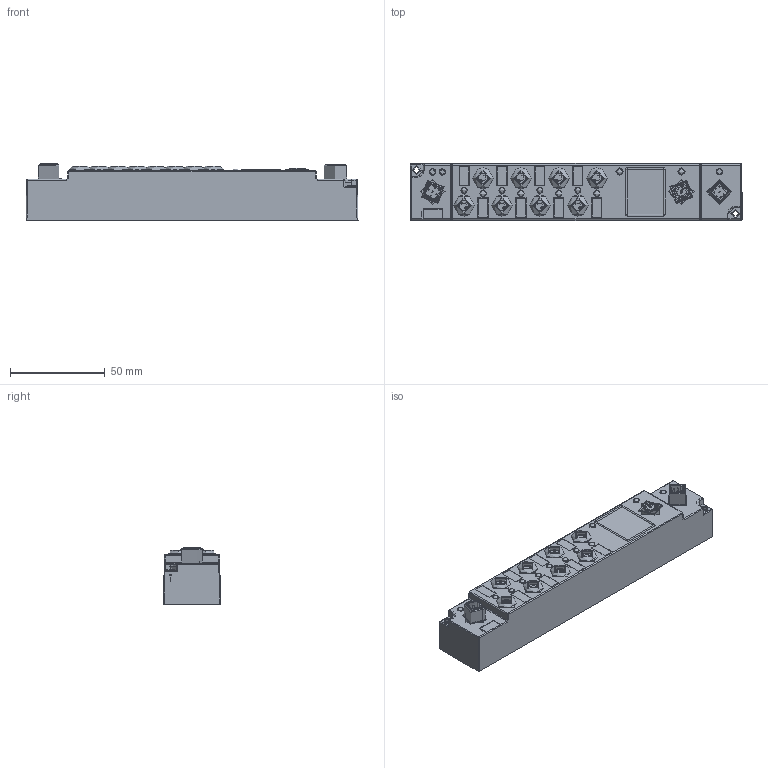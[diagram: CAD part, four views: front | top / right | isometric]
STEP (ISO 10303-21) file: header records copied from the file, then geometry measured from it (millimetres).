
FILE_DESCRIPTION (( 'STEP AP214' ), '1' );
FILE_NAME ('14-108-087 PVDM087.STEP', '2014-02-05T10:24:50', ( 'gianik' ), ( '' ), 'SwSTEP 2.0', 'SolidWorks 2013', '' );
FILE_SCHEMA (( 'AUTOMOTIVE_DESIGN' ));
Length unit declared in the file: millimetre
Products named in the file (28): 4110251342_MF 10-5 MC CABUR_1854510000 ; 105700_11; O-Ring 7,5mm x 1,3mm NBR70  ; 105600_63; O-Ring 9mm x 1mm NBR70  ; 4080221013; O-Ring 5mm x 1,2mm NBR70  ; 1282.9028 Mentor Lichtleiter A =14,4 ; O-Ring 5mm x 1,0mm NBR70  ; Einpressbuchse für M12 Buchse mit innen Gewinde; 6198881039_Pulse_H1102NLT; Einlegebuchse für M12 Buchse mit aussen Gewinde; 1020141014 SMD Led gr黱 3216LCGCK; 1020141034 SMD Led rot-gleb ; Einpresshülse PVDM 087 ; 224811; PVDM 087 Gehäuse; 4080225212 _ Erni Art.Nr. 244933 bzw. 244934; 14-108-087 PVDM087; 4080225210 _ Erni Art.Nr. 254310; 4080225209 _ Erni Art.Nr. 254317; Sechskantmutter EN ISO 10511 (DIN 985) - M2,5 - 04 - A2F; KFH-M2,5-12; Abstandsbuchse D5 d2,6 L5 Ms-vernickelt; 4060211072 MicroStac 50polig Erni 1144713; 3030202320 Lichleiter PLP2-375 
Assembly tree (90 placements, depth 4):
  14-108-087 PVDM087
    PVDM 087 Gehäuse
    Einpresshülse PVDM 087   x2
    Einlegebuchse für M12 Buchse mit aussen Gewinde  x2
    Einpressbuchse für M12 Buchse mit innen Gewinde
    1282.9028 Mentor Lichtleiter A =14,4   x10
    4080221013  x3
    105600_63
      105600_63
      105700_11
        105700_11
        4060211072 MicroStac 50polig Erni 1144713
        Abstandsbuchse D5 d2,6 L5 Ms-vernickelt
        KFH-M2,5-12
      4060211072 MicroStac 50polig Erni 1144713
      Sechskantmutter EN ISO 10511 (DIN 985) - M2,5 - 04 - A2F
      4080225209 _ Erni Art.Nr. 254317
      4080225210 _ Erni Art.Nr. 254310
      4080225212 _ Erni Art.Nr. 244933 bzw. 244934
      224811  x8
      1020141034 SMD Led rot-gleb   x8
      1020141014 SMD Led gr黱 3216LCGCK  x8
      6198881039_Pulse_H1102NLT  x2
    O-Ring 5mm x 1,0mm NBR70    x9
    O-Ring 5mm x 1,2mm NBR70    x8
    O-Ring 9mm x 1mm NBR70    x2
    O-Ring 7,5mm x 1,3mm NBR70    x2
    4110251342_MF 10-5 MC CABUR_1854510000   x9
    3030202320 Lichleiter PLP2-375   x3
Bounding box: 174.91 x 30.03 x 29.65 mm (x, y, z)
Topology: 99 solids, 196 shells, 8411 faces, 22060 edges, 14112 vertices
Faces by surface type: plane 5539, cylinder 2138, bspline 345, cone 286, torus 78, sphere 25
Full cylindrical faces by diameter (mm): 0.1 x18, 0.2 x1, 0.5 x3, 0.55 x3, 0.6 x46, 0.75 x16, 0.8 x16, 0.85 x13, 1 x45, 1.4 x19, 1.8 x1, 2 x7, 2.1 x1, 2.5 x11, 2.551 x1, 2.6 x15, 2.65 x1, 2.7 x3, 2.8 x10, 2.845 x3, 2.921 x3, 3.5 x2, 4.75 x2, 4.85 x4, 5 x2, 5.6 x8, 5.65 x8, 7 x8, 8 x8, 8.1 x1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
Entity records: 146653 total; most frequent: CARTESIAN_POINT 30725, ORIENTED_EDGE 20068, DIRECTION 18923, EDGE_CURVE 10111, VERTEX_POINT 6606, LINE 6597, VECTOR 6597, AXIS2_PLACEMENT_3D 6163
